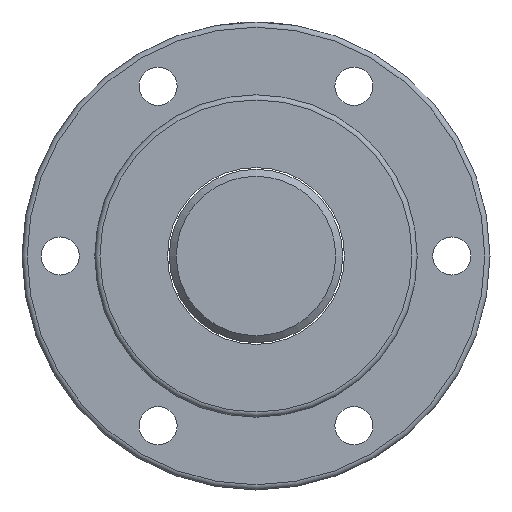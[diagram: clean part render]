
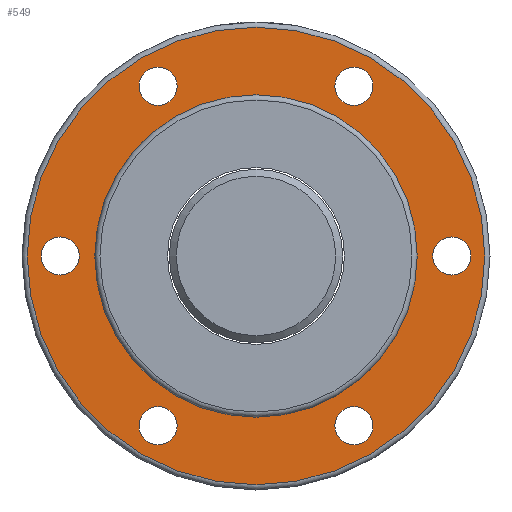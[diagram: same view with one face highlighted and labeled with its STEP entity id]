
A CAD part, left-side view. The second image highlights one B-rep face of the part: STEP entity #549.
In plain terms, the highlighted planar face has unit normal (-1, 0, 0).
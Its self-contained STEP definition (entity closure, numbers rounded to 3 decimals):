
#68=PLANE('',#652);
#143=ORIENTED_EDGE('',*,*,#220,.F.);
#144=ORIENTED_EDGE('',*,*,#225,.T.);
#145=ORIENTED_EDGE('',*,*,#218,.F.);
#146=ORIENTED_EDGE('',*,*,#214,.F.);
#147=ORIENTED_EDGE('',*,*,#210,.F.);
#148=ORIENTED_EDGE('',*,*,#206,.F.);
#149=ORIENTED_EDGE('',*,*,#202,.F.);
#150=ORIENTED_EDGE('',*,*,#198,.F.);
#198=EDGE_CURVE('',#251,#251,#295,.T.);
#202=EDGE_CURVE('',#255,#255,#299,.T.);
#206=EDGE_CURVE('',#259,#259,#303,.T.);
#210=EDGE_CURVE('',#263,#263,#307,.T.);
#214=EDGE_CURVE('',#267,#267,#311,.T.);
#218=EDGE_CURVE('',#271,#271,#315,.T.);
#220=EDGE_CURVE('',#273,#273,#317,.T.);
#225=EDGE_CURVE('',#278,#278,#322,.T.);
#251=VERTEX_POINT('',#892);
#255=VERTEX_POINT('',#903);
#259=VERTEX_POINT('',#914);
#263=VERTEX_POINT('',#925);
#267=VERTEX_POINT('',#936);
#271=VERTEX_POINT('',#947);
#273=VERTEX_POINT('',#952);
#278=VERTEX_POINT('',#967);
#295=CIRCLE('',#603,5.5);
#299=CIRCLE('',#610,5.5);
#303=CIRCLE('',#617,5.5);
#307=CIRCLE('',#624,5.5);
#311=CIRCLE('',#631,5.5);
#315=CIRCLE('',#638,5.5);
#317=CIRCLE('',#641,46.5);
#322=CIRCLE('',#651,66.);
#388=EDGE_LOOP('',(#143));
#389=EDGE_LOOP('',(#144));
#390=EDGE_LOOP('',(#145));
#391=EDGE_LOOP('',(#146));
#392=EDGE_LOOP('',(#147));
#393=EDGE_LOOP('',(#148));
#394=EDGE_LOOP('',(#149));
#395=EDGE_LOOP('',(#150));
#475=FACE_BOUND('',#388,.T.);
#476=FACE_BOUND('',#389,.T.);
#477=FACE_BOUND('',#390,.T.);
#478=FACE_BOUND('',#391,.T.);
#479=FACE_BOUND('',#392,.T.);
#480=FACE_BOUND('',#393,.T.);
#481=FACE_BOUND('',#394,.T.);
#482=FACE_BOUND('',#395,.T.);
#549=ADVANCED_FACE('',(#475,#476,#477,#478,#479,#480,#481,#482),#68,.T.);
#603=AXIS2_PLACEMENT_3D('',#891,#702,#703);
#610=AXIS2_PLACEMENT_3D('',#902,#716,#717);
#617=AXIS2_PLACEMENT_3D('',#913,#730,#731);
#624=AXIS2_PLACEMENT_3D('',#924,#744,#745);
#631=AXIS2_PLACEMENT_3D('',#935,#758,#759);
#638=AXIS2_PLACEMENT_3D('',#946,#772,#773);
#641=AXIS2_PLACEMENT_3D('',#951,#778,#779);
#651=AXIS2_PLACEMENT_3D('',#966,#798,#799);
#652=AXIS2_PLACEMENT_3D('',#968,#800,#801);
#702=DIRECTION('',(-1.,0.,0.));
#703=DIRECTION('',(0.,-1.,0.));
#716=DIRECTION('',(-1.,0.,0.));
#717=DIRECTION('',(0.,-1.,0.));
#730=DIRECTION('',(-1.,0.,0.));
#731=DIRECTION('',(0.,-1.,0.));
#744=DIRECTION('',(-1.,0.,0.));
#745=DIRECTION('',(0.,-1.,0.));
#758=DIRECTION('',(-1.,0.,0.));
#759=DIRECTION('',(0.,-1.,0.));
#772=DIRECTION('',(-1.,0.,0.));
#773=DIRECTION('',(0.,-1.,0.));
#778=DIRECTION('',(-1.,0.,0.));
#779=DIRECTION('',(0.,-1.,0.));
#798=DIRECTION('',(-1.,0.,0.));
#799=DIRECTION('',(0.,-1.,0.));
#800=DIRECTION('',(-1.,0.,0.));
#801=DIRECTION('',(0.,-1.,0.));
#891=CARTESIAN_POINT('',(-34.5,56.5,0.));
#892=CARTESIAN_POINT('',(-34.5,51.,0.));
#902=CARTESIAN_POINT('',(-34.5,-56.5,0.));
#903=CARTESIAN_POINT('',(-34.5,-62.,0.));
#913=CARTESIAN_POINT('',(-34.5,28.25,-48.93));
#914=CARTESIAN_POINT('',(-34.5,22.75,-48.93));
#924=CARTESIAN_POINT('',(-34.5,-28.25,-48.93));
#925=CARTESIAN_POINT('',(-34.5,-33.75,-48.93));
#935=CARTESIAN_POINT('',(-34.5,-28.25,48.93));
#936=CARTESIAN_POINT('',(-34.5,-33.75,48.93));
#946=CARTESIAN_POINT('',(-34.5,28.25,48.93));
#947=CARTESIAN_POINT('',(-34.5,22.75,48.93));
#951=CARTESIAN_POINT('',(-34.5,0.,0.));
#952=CARTESIAN_POINT('',(-34.5,-46.5,0.));
#966=CARTESIAN_POINT('',(-34.5,0.,0.));
#967=CARTESIAN_POINT('',(-34.5,-66.,0.));
#968=CARTESIAN_POINT('',(-34.5,56.25,0.));
